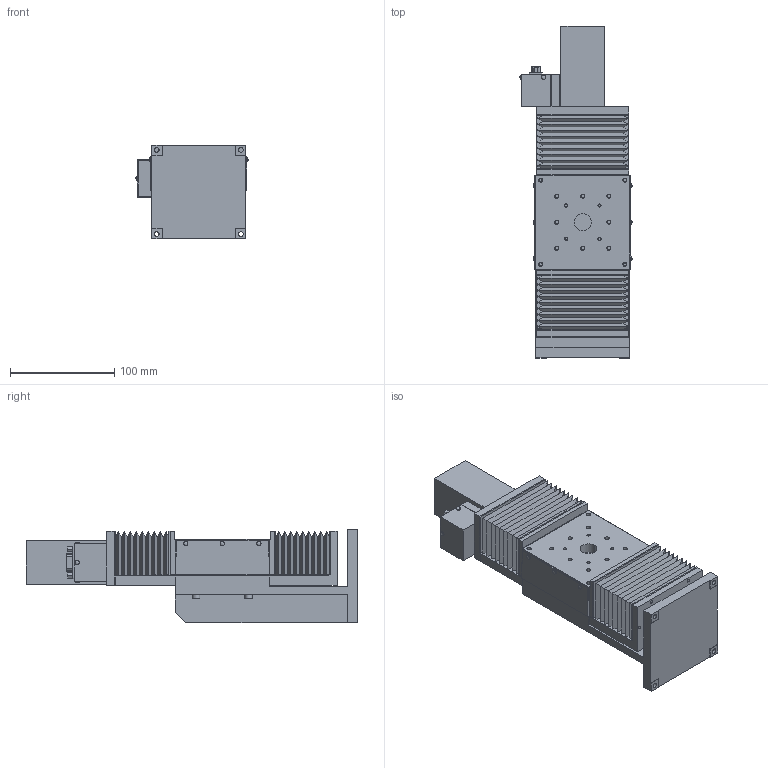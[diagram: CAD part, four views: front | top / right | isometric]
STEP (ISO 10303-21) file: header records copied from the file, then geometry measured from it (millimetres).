
FILE_DESCRIPTION (( 'STEP AP203' ), '1' );
FILE_NAME ('ALZ-904-H1PB.STEP', '2008-03-25T07:56:14', ( '' ), ( '' ), 'SwSTEP 2.0', 'SolidWorks 2007', '' );
FILE_SCHEMA (( 'CONFIG_CONTROL_DESIGN' ));
Length unit declared in the file: millimetre
Products named in the file (5): ALZ-904-H1PB; ALZ-904-H1PB-1_蹬怮椔; ALZ-904-H1PB-2_蹬怮椔; ALZ-904-H1PB-4_蹬怮椔; ALZ-904-H1PB-3_蹬怮椔
Assembly tree (4 placements, depth 2):
  ALZ-904-H1PB
    ALZ-904-H1PB-1_蹬怮椔
    ALZ-904-H1PB-3_蹬怮椔
    ALZ-904-H1PB-2_蹬怮椔
    ALZ-904-H1PB-4_蹬怮椔
Bounding box: 107.88 x 318 x 90 mm (x, y, z)
Volume: 1075116.3 mm3; surface area: 265665.6 mm2
Topology: 4 solids, 16 shells, 761 faces, 1856 edges, 1195 vertices
Faces by surface type: plane 437, cylinder 239, cone 52, sphere 20, bspline 9, torus 4
Entity records: 24682 total; most frequent: CARTESIAN_POINT 5728, DIRECTION 3909, ORIENTED_EDGE 3696, EDGE_CURVE 1848, AXIS2_PLACEMENT_3D 1330, VECTOR 1249, LINE 1249, VERTEX_POINT 1195
